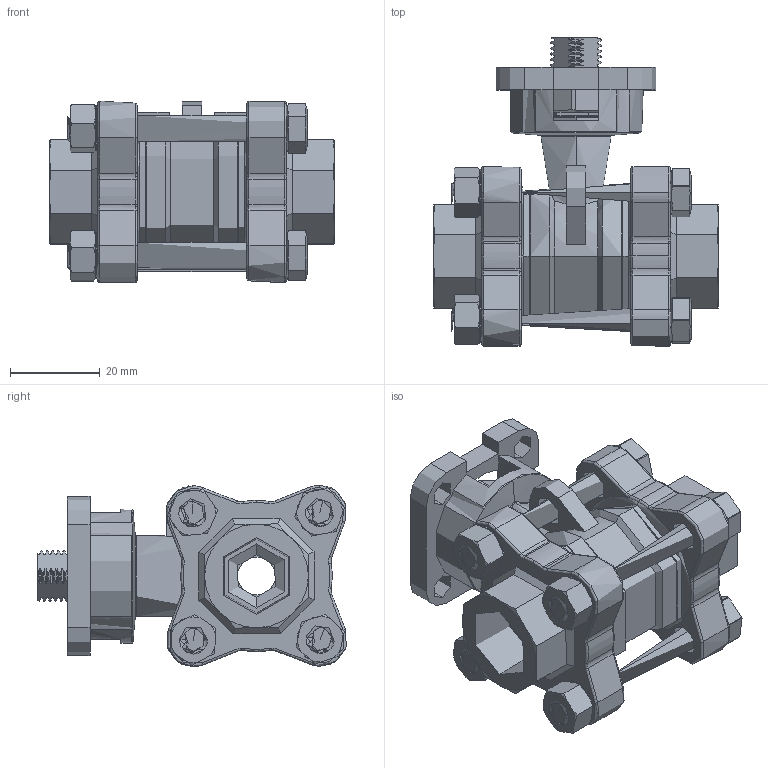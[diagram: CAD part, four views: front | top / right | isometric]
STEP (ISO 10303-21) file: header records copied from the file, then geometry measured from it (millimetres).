
FILE_DESCRIPTION (( 'STEP AP203' ), '1' );
FILE_NAME ('S3FDM-3.STEP', '2021-07-01T21:18:03', ( 'Owner' ), ( '' ), 'SwSTEP 2.0', 'SolidWorks 2017', '' );
FILE_SCHEMA (( 'CONFIG_CONTROL_DESIGN' ));
Length unit declared in the file: inch
Products named in the file (39): S3FDM-3-STEM-WASHER-UPPER; S3FDM-3-BODYBOLT; S3FDM-3-BALL; 1-4_20-NUT-REDUCED-W-WASHER_95462A029; S3FDM-3-STEM-THUST-WASHER-UPPER; S3FDM-3-SEAT; S3FDM-3-STEM-NUT-LOCKWASHER; S3FDM-3-STEM-NUT-WASHER-UPPER; S3FDM-3-STEM; S3FDM-3; S3FDM-3-stempacking; 1-4_20-NUT-REDUCED-W-WASHER; S3FDM-3-endfitting; S3FDM-3-STEM-WASHER-LOWER; S3FDM-3-BODY; S3FDM-3-STEM-NUT
Assembly tree (27 placements, depth 2):
  S3FDM-3-BODYBOLT
  S3FDM-3-BALL
  S3FDM-3-BODYBOLT
  S3FDM-3-SEAT
  S3FDM-3-BODYBOLT
Bounding box: 63.5 x 68.73 x 40.45 mm (x, y, z)
Volume: 59243.5 mm3; surface area: 39810.9 mm2
Topology: 27 solids, 27 shells, 1221 faces, 3141 edges, 1989 vertices
Faces by surface type: cylinder 481, plane 237, cone 170, torus 169, bspline 162, sphere 2
Entity records: 89807 total; most frequent: CARTESIAN_POINT 69873, ORIENTED_EDGE 3754, DIRECTION 3075, EDGE_CURVE 1877, AXIS2_PLACEMENT_3D 1255, VERTEX_POINT 1184, EDGE_LOOP 787, FACE_OUTER_BOUND 730
